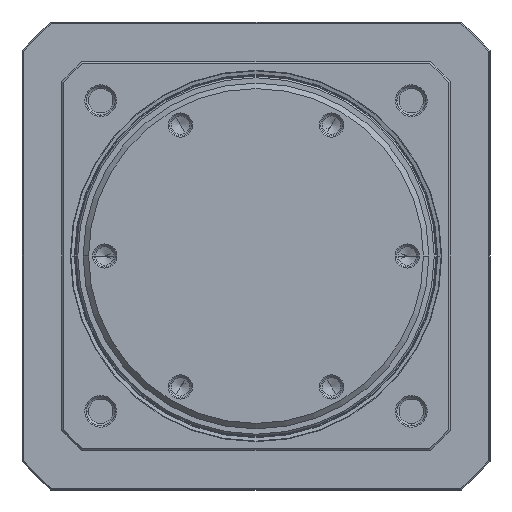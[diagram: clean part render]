
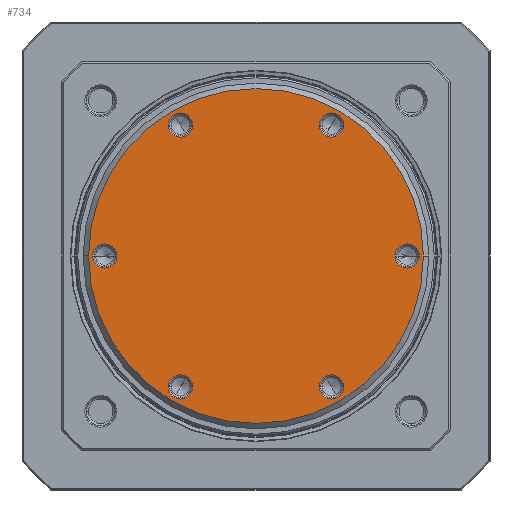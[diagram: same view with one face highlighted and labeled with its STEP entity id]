
A CAD part, left-side view. The second image highlights one B-rep face of the part: STEP entity #734.
In plain terms, the highlighted planar face has unit normal (-1, 0, 0).
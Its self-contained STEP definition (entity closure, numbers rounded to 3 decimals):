
#79=CARTESIAN_POINT('',(0.,0.,
0.));
#80=DIRECTION('',(-1.,0.,0.));
#81=DIRECTION('',(0.,1.,0.));
#82=AXIS2_PLACEMENT_3D('',#79,#80,#81);
#84=CARTESIAN_POINT('',(0.,0.,
0.));
#85=DIRECTION('',(-1.,0.,0.));
#86=DIRECTION('',(0.,-1.,0.));
#87=AXIS2_PLACEMENT_3D('',#84,#85,#86);
#89=CARTESIAN_POINT('',(0.,42.,0.));
#90=DIRECTION('',(1.,0.,0.));
#91=DIRECTION('',(0.,-1.,0.));
#92=AXIS2_PLACEMENT_3D('',#89,#90,#91);
#94=CARTESIAN_POINT('',(0.,42.,0.));
#95=DIRECTION('',(1.,0.,0.));
#96=DIRECTION('',(0.,1.,0.));
#97=AXIS2_PLACEMENT_3D('',#94,#95,#96);
#99=CARTESIAN_POINT('',(0.,21.,36.373));
#100=DIRECTION('',(1.,0.,0.));
#101=DIRECTION('',(0.,-0.5,-0.866));
#102=AXIS2_PLACEMENT_3D('',#99,#100,#101);
#104=CARTESIAN_POINT('',(0.,21.,36.373));
#105=DIRECTION('',(1.,0.,0.));
#106=DIRECTION('',(0.,0.5,0.866));
#107=AXIS2_PLACEMENT_3D('',#104,#105,#106);
#109=CARTESIAN_POINT('',(0.,-21.,36.373));
#110=DIRECTION('',(1.,0.,0.));
#111=DIRECTION('',(0.,0.5,-0.866));
#112=AXIS2_PLACEMENT_3D('',#109,#110,#111);
#114=CARTESIAN_POINT('',(0.,-21.,36.373));
#115=DIRECTION('',(1.,0.,0.));
#116=DIRECTION('',(0.,-0.5,0.866));
#117=AXIS2_PLACEMENT_3D('',#114,#115,#116);
#119=CARTESIAN_POINT('',(0.,-42.,0.));
#120=DIRECTION('',(1.,0.,0.));
#121=DIRECTION('',(0.,1.,0.));
#122=AXIS2_PLACEMENT_3D('',#119,#120,#121);
#124=CARTESIAN_POINT('',(0.,-42.,0.));
#125=DIRECTION('',(1.,0.,0.));
#126=DIRECTION('',(0.,-1.,0.));
#127=AXIS2_PLACEMENT_3D('',#124,#125,#126);
#129=CARTESIAN_POINT('',(0.,-21.,-36.373));
#130=DIRECTION('',(1.,0.,0.));
#131=DIRECTION('',(0.,0.5,0.866));
#132=AXIS2_PLACEMENT_3D('',#129,#130,#131);
#134=CARTESIAN_POINT('',(0.,-21.,-36.373));
#135=DIRECTION('',(1.,0.,0.));
#136=DIRECTION('',(0.,-0.5,-0.866));
#137=AXIS2_PLACEMENT_3D('',#134,#135,#136);
#139=CARTESIAN_POINT('',(0.,21.,-36.373));
#140=DIRECTION('',(1.,0.,0.));
#141=DIRECTION('',(0.,-0.5,0.866));
#142=AXIS2_PLACEMENT_3D('',#139,#140,#141);
#144=CARTESIAN_POINT('',(0.,21.,-36.373));
#145=DIRECTION('',(1.,0.,0.));
#146=DIRECTION('',(0.,0.5,-0.866));
#147=AXIS2_PLACEMENT_3D('',#144,#145,#146);
#453=CARTESIAN_POINT('',(0.,46.5,0.));
#454=CARTESIAN_POINT('',(0.,-46.5,
0.));
#455=VERTEX_POINT('',#453);
#456=VERTEX_POINT('',#454);
#467=CARTESIAN_POINT('',(0.,38.65,0.));
#468=CARTESIAN_POINT('',(0.,45.35,0.));
#469=VERTEX_POINT('',#467);
#470=VERTEX_POINT('',#468);
#521=CARTESIAN_POINT('',(0.,19.325,33.472));
#522=CARTESIAN_POINT('',(0.,22.675,39.274));
#523=VERTEX_POINT('',#521);
#524=VERTEX_POINT('',#522);
#529=CARTESIAN_POINT('',(0.,-19.325,33.472));
#530=CARTESIAN_POINT('',(0.,-22.675,39.274));
#531=VERTEX_POINT('',#529);
#532=VERTEX_POINT('',#530);
#537=CARTESIAN_POINT('',(0.,-38.65,0.));
#538=CARTESIAN_POINT('',(0.,-45.35,0.));
#539=VERTEX_POINT('',#537);
#540=VERTEX_POINT('',#538);
#545=CARTESIAN_POINT('',(0.,-19.325,-33.472));
#546=CARTESIAN_POINT('',(0.,-22.675,-39.274));
#547=VERTEX_POINT('',#545);
#548=VERTEX_POINT('',#546);
#553=CARTESIAN_POINT('',(0.,19.325,-33.472));
#554=CARTESIAN_POINT('',(0.,22.675,-39.274));
#555=VERTEX_POINT('',#553);
#556=VERTEX_POINT('',#554);
#688=CARTESIAN_POINT('',(0.,0.,0.));
#689=DIRECTION('',(1.,0.,0.));
#690=DIRECTION('',(0.,-1.,0.));
#691=AXIS2_PLACEMENT_3D('',#688,#689,#690);
#692=PLANE('',#691);
#694=ORIENTED_EDGE('',*,*,#693,.F.);
#695=ORIENTED_EDGE('',*,*,#678,.F.);
#696=EDGE_LOOP('',(#694,#695));
#697=FACE_OUTER_BOUND('',#696,.F.);
#699=ORIENTED_EDGE('',*,*,#698,.F.);
#701=ORIENTED_EDGE('',*,*,#700,.F.);
#702=EDGE_LOOP('',(#699,#701));
#703=FACE_BOUND('',#702,.F.);
#705=ORIENTED_EDGE('',*,*,#704,.F.);
#707=ORIENTED_EDGE('',*,*,#706,.F.);
#708=EDGE_LOOP('',(#705,#707));
#709=FACE_BOUND('',#708,.F.);
#711=ORIENTED_EDGE('',*,*,#710,.F.);
#713=ORIENTED_EDGE('',*,*,#712,.F.);
#714=EDGE_LOOP('',(#711,#713));
#715=FACE_BOUND('',#714,.F.);
#717=ORIENTED_EDGE('',*,*,#716,.F.);
#719=ORIENTED_EDGE('',*,*,#718,.F.);
#720=EDGE_LOOP('',(#717,#719));
#721=FACE_BOUND('',#720,.F.);
#723=ORIENTED_EDGE('',*,*,#722,.F.);
#725=ORIENTED_EDGE('',*,*,#724,.F.);
#726=EDGE_LOOP('',(#723,#725));
#727=FACE_BOUND('',#726,.F.);
#729=ORIENTED_EDGE('',*,*,#728,.F.);
#731=ORIENTED_EDGE('',*,*,#730,.F.);
#732=EDGE_LOOP('',(#729,#731));
#733=FACE_BOUND('',#732,.F.);
#734=ADVANCED_FACE('',(#697,#703,#709,#715,#721,#727,#733),#692,.F.);
#83=CIRCLE('',#82,46.5);
#88=CIRCLE('',#87,46.5);
#93=CIRCLE('',#92,3.35);
#98=CIRCLE('',#97,3.35);
#103=CIRCLE('',#102,3.35);
#108=CIRCLE('',#107,3.35);
#113=CIRCLE('',#112,3.35);
#118=CIRCLE('',#117,3.35);
#123=CIRCLE('',#122,3.35);
#128=CIRCLE('',#127,3.35);
#133=CIRCLE('',#132,3.35);
#138=CIRCLE('',#137,3.35);
#143=CIRCLE('',#142,3.35);
#148=CIRCLE('',#147,3.35);
#678=EDGE_CURVE('',#456,#455,#88,.T.);
#693=EDGE_CURVE('',#455,#456,#83,.T.);
#698=EDGE_CURVE('',#469,#470,#93,.T.);
#700=EDGE_CURVE('',#470,#469,#98,.T.);
#704=EDGE_CURVE('',#523,#524,#103,.T.);
#706=EDGE_CURVE('',#524,#523,#108,.T.);
#710=EDGE_CURVE('',#531,#532,#113,.T.);
#712=EDGE_CURVE('',#532,#531,#118,.T.);
#716=EDGE_CURVE('',#539,#540,#123,.T.);
#718=EDGE_CURVE('',#540,#539,#128,.T.);
#722=EDGE_CURVE('',#547,#548,#133,.T.);
#724=EDGE_CURVE('',#548,#547,#138,.T.);
#728=EDGE_CURVE('',#555,#556,#143,.T.);
#730=EDGE_CURVE('',#556,#555,#148,.T.);
